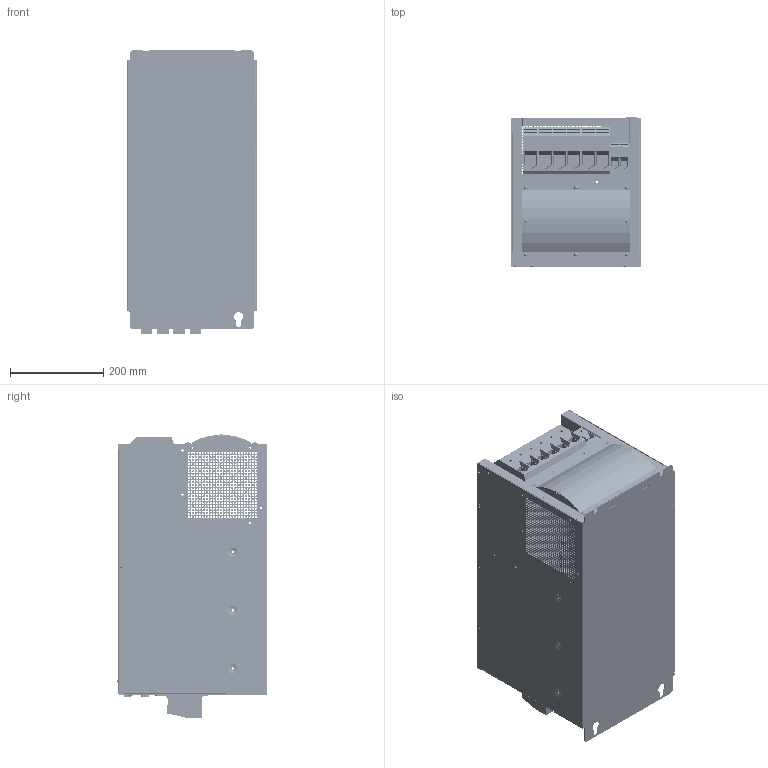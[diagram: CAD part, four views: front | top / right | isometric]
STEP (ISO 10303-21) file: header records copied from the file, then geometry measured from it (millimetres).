
FILE_DESCRIPTION(/* description */ (''),/* implementation_level */ '2;1');
FILE_NAME(/* name */ 'DNS507',/* time_stamp */ '2009-01-28T15:15:23+01:00',/* author */ (''),/* organization */ (''),/* preprocessor_version */ 'ST-DEVELOPER v9',/* originating_system */ 'UGS - NX 4.0',/* authorisation */ '');
FILE_SCHEMA (('AUTOMOTIVE_DESIGN { 1 0 10303 214 1 1 1 1 }'));
Length unit declared in the file: millimetre
Products named in the file (1): sdum314C6b0c
Bounding box: 280 x 324.3 x 610.8 mm (x, y, z)
Volume: 4343280.6 mm3; surface area: 4430143.3 mm2
Topology: 100 solids, 100 shells, 13185 faces, 35373 edges, 23268 vertices
Faces by surface type: plane 7153, bspline 4492, cylinder 1256, cone 220, torus 62, sphere 2
Entity records: 522027 total; most frequent: CARTESIAN_POINT 155053, ORIENTED_EDGE 70666, DIRECTION 46641, EDGE_CURVE 35333, LINE 23273, VECTOR 23273, VERTEX_POINT 23268, EDGE_LOOP 18009
